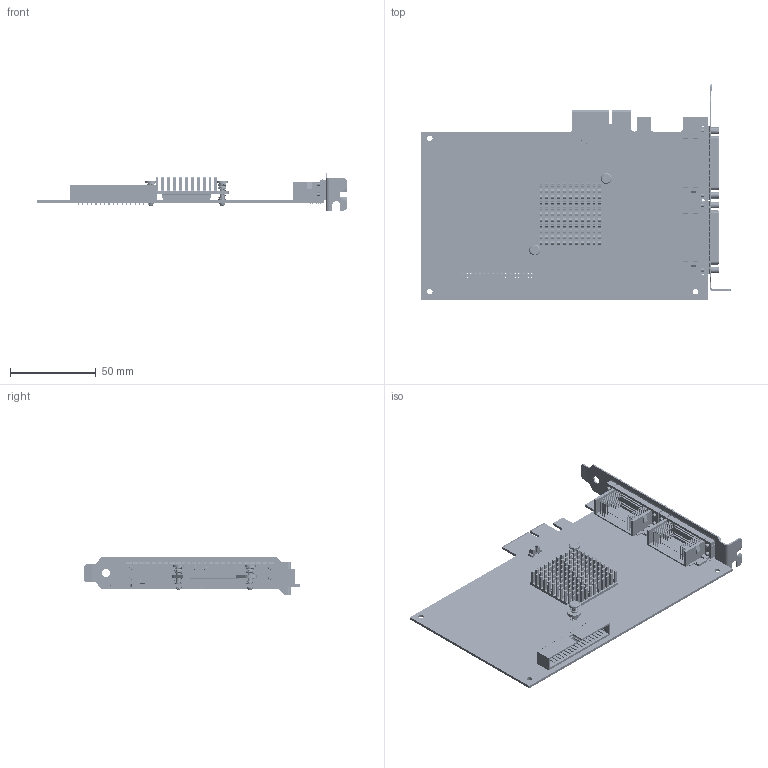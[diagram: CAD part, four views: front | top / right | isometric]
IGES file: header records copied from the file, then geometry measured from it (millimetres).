
Start section:  PTC IGES file: cu_pcie-7820r_7821r.igs
Global section: file name: cu_pcie-7820r_7821r.igs; native system: Creo Parametric by PTC Inc.; preprocessor: 2017480; author: dkendric; organization: Unknown; date: 20190228.103538; units: millimetre
Bounding box: 180.92 x 126.32 x 21.59 mm (x, y, z)
Surface area: 65074.7 mm2 (no closed solid volume)
Topology: 0 solids, 0 shells, 7989 faces, 45552 edges, 45552 vertices
Faces by surface type: bspline 5943, revolution 2046
